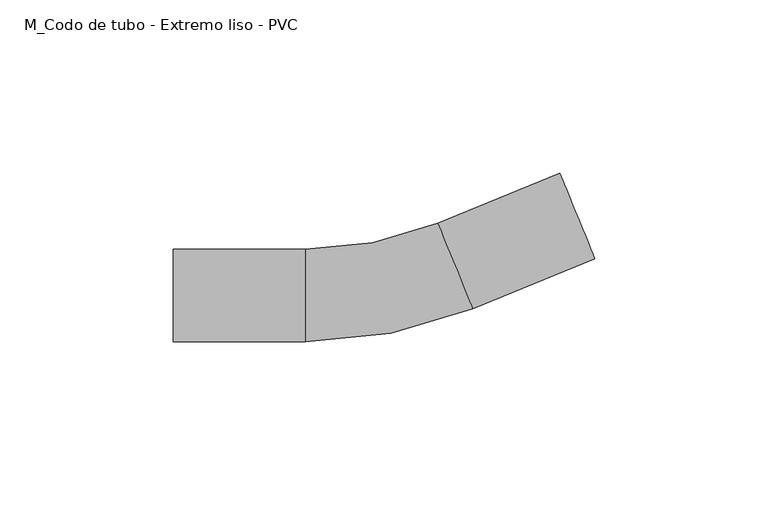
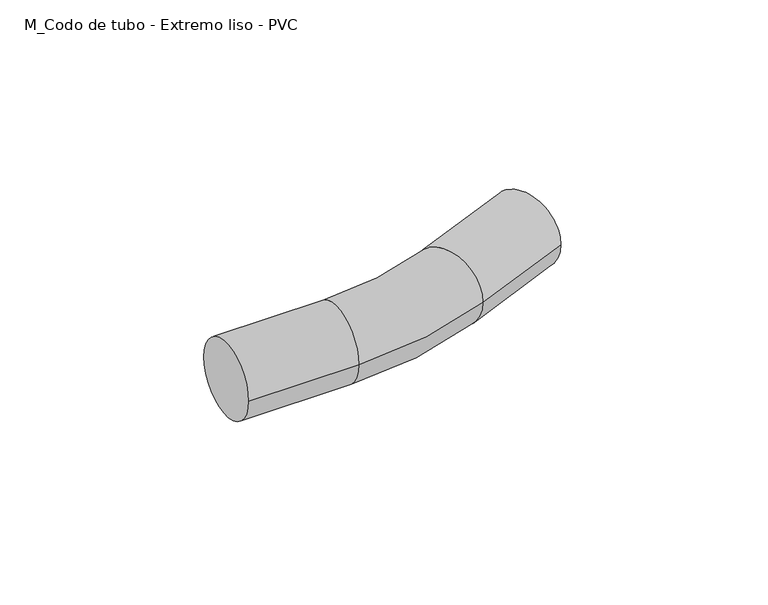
"""IFC4 building model written with IfcOpenShell, lengths in millimetres: cable carrier fitting geometry, M_Codo de tubo - Extremo liso - PVC : CODO ILUMINACION."""

import ifcopenshell
import ifcopenshell.guid

model = None  # the IFC model being written
_history = None  # IfcOwnerHistory: only IFC2X3 demands one
_inside = {}  # id of a spatial element -> (the spatial element, [elements in it])
_under = {}  # id of a project, library or spatial element -> (it, [spatial elements below it])
_declared = {}  # id of a project -> (the project, [libraries it declares])
_typed = {}  # id of a type object -> (the type object, [elements of that type])
_made_of = {}  # id of a material, layer set ... -> (it, [elements and type objects made of it])


def new_model(schema):
    """Start an empty IFC model of exactly this schema.

    Asked for "IFC4X3", IfcOpenShell would pick the latest addendum, in which some entities
    have other attributes; the version numbers below select the first issue.
    IFC2X3 requires an IfcOwnerHistory on every rooted entity: one is made here for all.
    """
    global model, _history
    if schema == "IFC4X3":
        model = ifcopenshell.file(schema_version=(4, 3, 0, 0))
    else:
        model = ifcopenshell.file(schema=schema)
    _inside.clear()
    _under.clear()
    _declared.clear()
    _typed.clear()
    _made_of.clear()
    _history = None
    if model.schema == "IFC2X3":
        org = make("IfcOrganization", Name="unknown")
        user = make(
            "IfcPersonAndOrganization",
            ThePerson=make("IfcPerson", FamilyName="unknown"),
            TheOrganization=org,
        )
        app = make(
            "IfcApplication",
            ApplicationDeveloper=org,
            Version="unknown",
            ApplicationFullName="unknown",
            ApplicationIdentifier="unknown",
        )
        _history = make(
            "IfcOwnerHistory",
            OwningUser=user,
            OwningApplication=app,
            ChangeAction="ADDED",
            CreationDate=0,
        )
    return model


def make(cls, **values):
    """One entity of the class cls with the attributes given. An attribute that is None is left unset."""
    return model.create_entity(
        cls, **{name: value for name, value in values.items() if value is not None}
    )


def rooted(cls, **values):
    """An entity with a GlobalId (a new one), such as an element, a storey or a relation."""
    return make(cls, GlobalId=ifcopenshell.guid.new(), OwnerHistory=_history, **values)


def si_unit(unit_type, name, prefix=None):
    """IfcSIUnit, for example si_unit("LENGTHUNIT", "METRE", prefix="MILLI")."""
    return make("IfcSIUnit", UnitType=unit_type, Prefix=prefix, Name=name)


def assignment(units):
    """IfcUnitAssignment: the units of a project."""
    return None if units is None else make("IfcUnitAssignment", Units=units)


def point(xyz):
    """IfcCartesianPoint."""
    return None if xyz is None else make("IfcCartesianPoint", Coordinates=xyz)


def direction(xyz):
    """IfcDirection."""
    return None if xyz is None else make("IfcDirection", DirectionRatios=xyz)


def frame(location, z_axis=None, x_axis=None):
    """IfcAxis2Placement3D, a coordinate frame: its origin and axes. An axis left out is left unset."""
    return make(
        "IfcAxis2Placement3D",
        Location=point(location),
        Axis=direction(z_axis),
        RefDirection=direction(x_axis),
    )


def origin():
    """The frame at (0, 0, 0) with its axes left unset."""
    return frame((0.0, 0.0, 0.0))


def place(relative_to, where):
    """IfcLocalPlacement: puts the frame where relative to a parent placement (None: the world)."""
    return make(
        "IfcLocalPlacement", PlacementRelTo=relative_to, RelativePlacement=where
    )


def context(
    kind, dimensions, precision=None, world=None, true_north=None, identifier=None
):
    """IfcGeometricRepresentationContext, for example the 3D "Model" context."""
    return make(
        "IfcGeometricRepresentationContext",
        ContextIdentifier=identifier,
        ContextType=kind,
        CoordinateSpaceDimension=dimensions,
        Precision=precision,
        WorldCoordinateSystem=world,
        TrueNorth=true_north,
    )


def project(units=None, contexts=None):
    """IfcProject with its units and contexts."""
    return rooted(
        "IfcProject",
        Name="project",
        RepresentationContexts=contexts,
        UnitsInContext=assignment(units),
    )


def spatial(cls, under=None, at=None, **own):
    """A site, building, storey or space (cls), placed at a placement, below another one or the project."""
    s = rooted(cls, ObjectPlacement=at, **own)
    if under is not None:
        _under.setdefault(under.id(), (under, []))[1].append(s)
    return s


def circle_curve(where, radius):
    """IfcCircle in the frame where."""
    return make("IfcCircle", Position=where, Radius=radius)


def ellipse_curve(where, semi_axis1, semi_axis2):
    """IfcEllipse in the frame where."""
    return make(
        "IfcEllipse", Position=where, SemiAxis1=semi_axis1, SemiAxis2=semi_axis2
    )


def trimmed(basis, trim1, trim2, sense, master):
    """IfcTrimmedCurve: the piece of a basis curve between two trims."""
    return make(
        "IfcTrimmedCurve",
        BasisCurve=basis,
        Trim1=trim1,
        Trim2=trim2,
        SenseAgreement=sense,
        MasterRepresentation=master,
    )


def shape(context_of_items, identifier, shape_type, items):
    """IfcShapeRepresentation: the items that make up one representation, for example the "Body"."""
    return make(
        "IfcShapeRepresentation",
        ContextOfItems=context_of_items,
        RepresentationIdentifier=identifier,
        RepresentationType=shape_type,
        Items=items,
    )


def source(mapping_origin, context_of_items, identifier, shape_type, items):
    """IfcRepresentationMap: a shape defined once, which mapped items show again and again."""
    return make(
        "IfcRepresentationMap",
        MappingOrigin=mapping_origin,
        MappedRepresentation=shape(context_of_items, identifier, shape_type, items),
    )


def transform(
    local_origin,
    x_axis=None,
    y_axis=None,
    z_axis=None,
    scale=None,
    scale2=None,
    scale3=None,
    uniform=True,
):
    """IfcCartesianTransformationOperator3D, or its non-uniform kind. x_axis, y_axis, z_axis: its Axis1, 2, 3."""
    if uniform:
        return make(
            "IfcCartesianTransformationOperator3D",
            Axis1=direction(x_axis),
            Axis2=direction(y_axis),
            LocalOrigin=point(local_origin),
            Scale=scale,
            Axis3=direction(z_axis),
        )
    return make(
        "IfcCartesianTransformationOperator3DnonUniform",
        Axis1=direction(x_axis),
        Axis2=direction(y_axis),
        LocalOrigin=point(local_origin),
        Scale=scale,
        Axis3=direction(z_axis),
        Scale2=scale2,
        Scale3=scale3,
    )


def mapped(mapping_source, mapping_target):
    """IfcMappedItem: shows the shape of a source again, moved by a transform."""
    return make(
        "IfcMappedItem", MappingSource=mapping_source, MappingTarget=mapping_target
    )


def made_of(thing, what):
    """Note that an element or type object is made of a material, layer set ...; save() writes the relation."""
    if what is not None:
        _made_of.setdefault(what.id(), (what, []))[1].append(thing)
    return thing


def element(
    cls,
    number,
    at=None,
    inside=None,
    cuts=None,
    type_object=None,
    material=None,
    context=None,
    identifier="Body",
    shape_type=None,
    held_by="IfcProductDefinitionShape",
    body=None,
    shapes=None,
    **own,
):
    """One element of the class cls, such as IfcWall. Its Tag is "e" and its number.

    at: its placement. inside: the storey or other place that contains it. cuts: it is an
    opening in that element (IfcRelVoidsElement). A single representation is given by context,
    identifier, shape_type and body (its items); several are given by shapes. held_by: the class
    of the entity that holds the representations. save() writes the other relations.
    """
    e = rooted(cls, Tag="e%d" % number, ObjectPlacement=at, **own)
    if body is not None:
        shapes = [shape(context, identifier, shape_type, body)]
    if shapes is not None:
        e.Representation = make(held_by, Representations=shapes)
    if inside is not None:
        _inside.setdefault(inside.id(), (inside, []))[1].append(e)
    if cuts is not None:
        rooted(
            "IfcRelVoidsElement", RelatingBuildingElement=cuts, RelatedOpeningElement=e
        )
    if type_object is not None:
        _typed.setdefault(type_object.id(), (type_object, []))[1].append(e)
    return made_of(e, material)


def aggregate(whole, parts):
    """IfcRelAggregates: a whole, such as a stair, and the parts it consists of."""
    return rooted("IfcRelAggregates", RelatingObject=whole, RelatedObjects=parts)


def save(model, path):
    """Write the relations noted so far, then the file.

    IfcRelAggregates (storeys below a building ...), IfcRelContainedInSpatialStructure (elements
    in a storey), IfcRelDefinesByType, IfcRelAssociatesMaterial and IfcRelDeclares: one each for
    every whole, place, type object, material and project.
    """
    for whole, parts in _under.values():
        aggregate(whole, parts)
    for where, things in _inside.values():
        rooted(
            "IfcRelContainedInSpatialStructure",
            RelatedElements=things,
            RelatingStructure=where,
        )
    for kind, things in _typed.values():
        rooted("IfcRelDefinesByType", RelatedObjects=things, RelatingType=kind)
    for what, things in _made_of.values():
        rooted("IfcRelAssociatesMaterial", RelatedObjects=things, RelatingMaterial=what)
    for by, libraries in _declared.values():
        rooted("IfcRelDeclares", RelatingContext=by, RelatedDefinitions=libraries)
    model.write(path)


def plane_surface(at):
    """IfcPlane: the flat surface through the origin of the frame at, square to its z axis."""
    return make("IfcPlane", Position=at)


def cylinder_surface(at, radius):
    """IfcCylindricalSurface: all points at the distance radius from the z axis of the frame at."""
    return make("IfcCylindricalSurface", Position=at, Radius=radius)


def revolved_surface(curve, axis_point, axis_direction):
    """IfcSurfaceOfRevolution: the curve turned about the line through axis_point along axis_direction."""
    return make(
        "IfcSurfaceOfRevolution",
        SweptCurve=make("IfcArbitraryOpenProfileDef", ProfileType="CURVE", Curve=curve),
        AxisPosition=make("IfcAxis1Placement", Location=point(axis_point), Axis=direction(axis_direction)),
    )


def advanced_brep(points, edges, surfaces, faces):
    """IfcAdvancedBrep: a solid bounded by faces that lie on surfaces and meet in shared edges.

    An edge is (start, end): straight between two places in points (the first is 0);
    or (start, end, curve); or (start, end, curve, False) where it runs against its curve.
    A face is (place in surfaces, loops), or (place, loops, False) where it looks against
    its surface's normal. A loop lists edges by number (the first is 1), with a minus sign
    where the edge is run from its end to its start. The first loop is the outer one.
    """
    corners = [point(p) for p in points]
    vertices = [make("IfcVertexPoint", VertexGeometry=c) for c in corners]
    made = []
    for start, end, *more in edges:
        made.append(
            make(
                "IfcEdgeCurve",
                EdgeStart=vertices[start],
                EdgeEnd=vertices[end],
                EdgeGeometry=more[0] if more else make("IfcPolyline", Points=[corners[start], corners[end]]),
                SameSense=more[1] if len(more) > 1 else True,
            )
        )
    hull = []
    for where, loops, *sense in faces:
        bounds = []
        for j, loop in enumerate(loops):
            ring = [make("IfcOrientedEdge", EdgeElement=made[abs(k) - 1], Orientation=k > 0) for k in loop]
            bounds.append(
                make(
                    "IfcFaceOuterBound" if j == 0 else "IfcFaceBound",
                    Bound=make("IfcEdgeLoop", EdgeList=ring),
                    Orientation=True,
                )
            )
        hull.append(make("IfcAdvancedFace", Bounds=bounds, FaceSurface=surfaces[where], SameSense=sense[0] if sense else True))
    return make("IfcAdvancedBrep", Outer=make("IfcClosedShell", CfsFaces=hull))


def m_codo_de_tubo_extremo_liso_pvc_d450ba0d(model_context):
    return source(origin(), model_context, "Body", "AdvancedBrep", [
        advanced_brep(
        [(-60.6007119, -13.335, 0.0), (-60.6007119, 13.335, 0.0), (-22.5007119, -13.335, 0.0), (-22.5007119, 13.335, 0.0), (15.7675537, 20.8683615, 0.0), (25.8761522, -3.8116939, 0.0), (61.1333743, 10.629161, 0.0), (51.0247758, 35.3092165, 0.0)],
        [
            (0, 1, circle_curve(frame((-60.6007119, 0.0, 0.0), z_axis=(-1.0, 0.0, 0.0), x_axis=(0.0, 1.0, 0.0)), 13.335)),
            (1, 0, circle_curve(frame((-60.6007119, 0.0, 0.0), z_axis=(-1.0, 0.0, 0.0), x_axis=(0.0, 1.0, 0.0)), 13.335)),
            (0, 2),
            (2, 3, circle_curve(frame((-22.5007119, 0.0, 0.0), z_axis=(-1.0, 0.0, 0.0), x_axis=(0.0, 1.0, 0.0)), 13.335)),
            (3, 1),
            (3, 2, circle_curve(frame((-22.5007119, 0.0, 0.0), z_axis=(-1.0, 0.0, 0.0), x_axis=(0.0, 1.0, 0.0)), 13.335)),
            (4, 3, circle_curve(frame((-22.5007119, 114.3, 0.0), z_axis=(0.0, 0.0, -1.0), x_axis=(0.0, -1.0, 0.0)), 100.965)),
            (2, 5, circle_curve(frame((-22.5007119, 114.3, 0.0), z_axis=(0.0, 0.0, 1.0), x_axis=(0.0, -1.0, 0.0)), 127.635)),
            (5, 4, circle_curve(frame((20.821853, 8.5283338, 0.0), z_axis=(-0.9253864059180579, -0.3790250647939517, 0.0), x_axis=(-0.3790250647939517, 0.9253864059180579, 0.0)), 13.335)),
            (4, 5, circle_curve(frame((20.821853, 8.5283338, 0.0), z_axis=(-0.9253864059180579, -0.37902506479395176, 0.0), x_axis=(-0.37902506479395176, 0.9253864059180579, 0.0)), 13.335)),
            (6, 7, circle_curve(frame((56.079075, 22.9691888, 0.0), z_axis=(0.925386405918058, 0.3790250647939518, 0.0), x_axis=(-0.3790250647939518, 0.925386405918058, 0.0)), 13.335)),
            (7, 6, circle_curve(frame((56.079075, 22.9691888, 0.0), z_axis=(0.925386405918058, 0.3790250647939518, 0.0), x_axis=(-0.3790250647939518, 0.925386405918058, 0.0)), 13.335)),
            (5, 6),
            (7, 4),
        ],
        [
            plane_surface(frame((-60.6007119, 0.0, 0.0), z_axis=(-1.0, 0.0, 0.0), x_axis=(0.0, 0.0, 1.0))),
            cylinder_surface(frame((-60.6007119, 0.0, 0.0), z_axis=(-1.0, 0.0, 0.0), x_axis=(0.0, 1.0, 0.0)), 13.335),
            revolved_surface(trimmed(ellipse_curve(frame((-22.5007119, 0.0, 0.0), z_axis=(-1.0, 0.0, 0.0), x_axis=(0.0, 1.0, 0.0)), 13.335, 13.335), [point((-22.5007119, -13.335, 0.0))], [point((-22.5007119, 13.335, 0.0))], True, "CARTESIAN"), (-22.5007119, 114.3, 0.0), (0.0, 0.0, 1.0)),
            revolved_surface(trimmed(ellipse_curve(frame((-22.5007119, 0.0, 0.0), z_axis=(-1.0, 0.0, 0.0), x_axis=(0.0, 1.0, 0.0)), 13.335, 13.335), [point((-22.5007119, 13.335, 0.0))], [point((-22.5007119, -13.335, 0.0))], True, "CARTESIAN"), (-22.5007119, 114.3, 0.0), (0.0, 0.0, 1.0)),
            plane_surface(frame((56.079075, 22.9691888, 0.0), z_axis=(0.925386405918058, 0.37902506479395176, 0.0), x_axis=(0.0, 0.0, 1.0))),
            cylinder_surface(frame((20.821853, 8.5283338, 0.0), z_axis=(-0.925386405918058, -0.3790250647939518, 0.0), x_axis=(-0.3790250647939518, 0.925386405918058, 0.0)), 13.335),
        ],
        [
            (0, [[1, 2]]),
            (1, [[-1, 3, 4, 5]]),
            (1, [[-2, -5, 6, -3]]),
            (2, [[7, -4, 8, 9]]),
            (3, [[-8, -6, -7, 10]]),
            (4, [[11, 12]]),
            (5, [[-9, 13, -12, 14]]),
            (5, [[-10, -14, -11, -13]]),
        ],
    ),
    ])


if __name__ == "__main__":
    model = new_model("IFC4")
    model_context = context("Model", 3, world=origin())
    ifc_project = project(units=[si_unit("LENGTHUNIT", "METRE", prefix="MILLI")], contexts=[model_context])
    site = spatial("IfcSite", under=ifc_project)
    building = spatial("IfcBuilding", under=site)
    placement = place(None, origin())
    m_codo_de_tubo_extremo_liso_pvc_shape = m_codo_de_tubo_extremo_liso_pvc_d450ba0d(model_context)
    element("IfcCableCarrierFitting", 1, ObjectType="M_Codo de tubo - Extremo liso - PVC : CODO ILUMINACION", at=placement, inside=building, context=model_context, shape_type="MappedRepresentation", body=[
        mapped(m_codo_de_tubo_extremo_liso_pvc_shape, transform((0.0, 0.0, 0.0), x_axis=(1.0, 0.0, 0.0), y_axis=(0.0, 1.0, 0.0), z_axis=(0.0, 0.0, 1.0))),
    ])
    save(model, "model.ifc")
